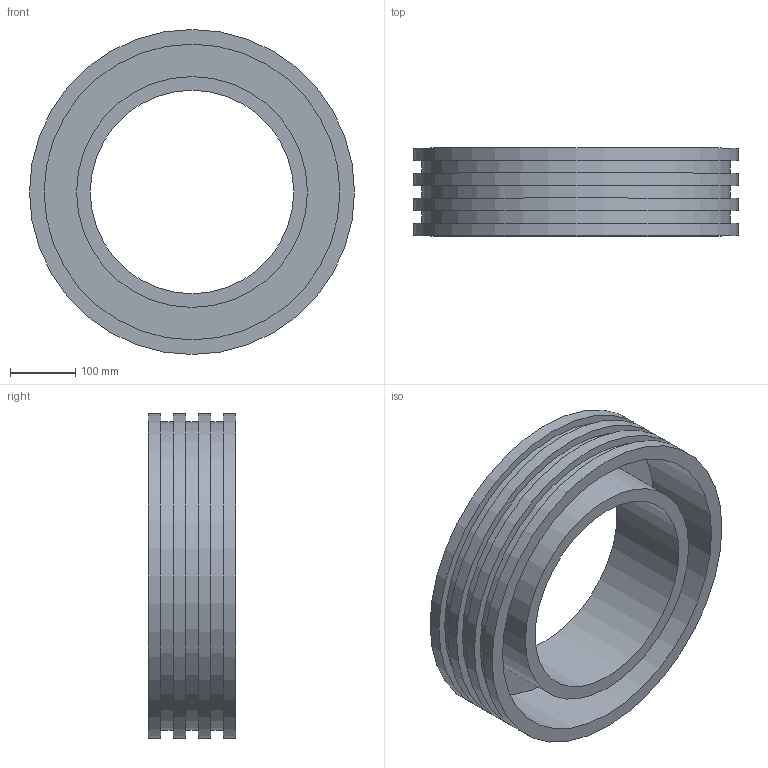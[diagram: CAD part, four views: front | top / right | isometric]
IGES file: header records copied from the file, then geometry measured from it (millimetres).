
Global section: file name: 37020355.ipt; native system: Autodesk Inventor 2015; preprocessor: unknown; author: Кирилл,,11,0; organization: 20170830.190241; date: 20171106.093318; units: millimetre
Bounding box: 500 x 135 x 500 mm (x, y, z)
Volume: 7037158.6 mm3; surface area: 1012930.7 mm2
Topology: 1 solids, 1 shells, 20 faces, 34 edges, 24 vertices
Faces by surface type: plane 10, cylinder 8, revolution 2
Full cylindrical faces by diameter (mm): 355 x1, 475 x3, 500 x4
